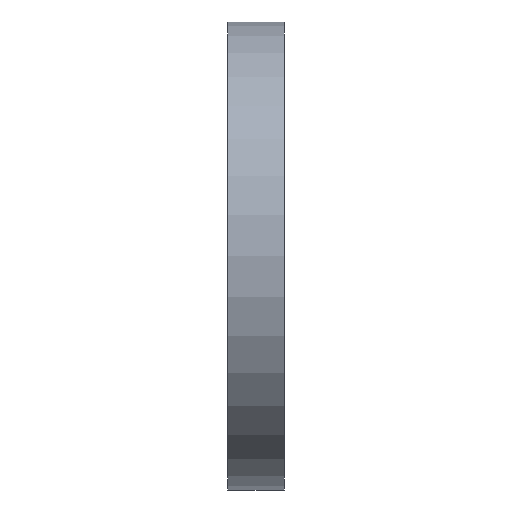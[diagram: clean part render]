
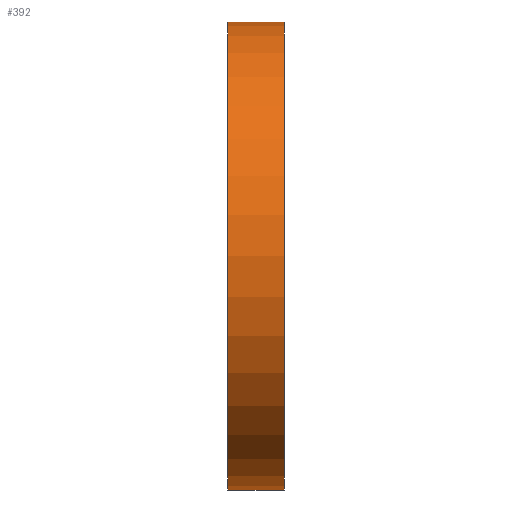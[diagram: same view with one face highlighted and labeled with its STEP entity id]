
A CAD part, left-side view. The second image highlights one B-rep face of the part: STEP entity #392.
In plain terms, the highlighted cylindrical face has radius 100 mm (diameter 200 mm), a partial arc.
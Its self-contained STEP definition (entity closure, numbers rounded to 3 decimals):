
#14 = DIRECTION ( 'NONE',  ( 0., 1., 0. ) ) ;
#62 = DIRECTION ( 'NONE',  ( 0., 0., 1. ) ) ;
#75 = EDGE_CURVE ( 'NONE', #501, #249, #324, .T. ) ;
#148 = EDGE_CURVE ( 'NONE', #249, #183, #839, .T. ) ;
#168 = CYLINDRICAL_SURFACE ( 'NONE', #707, 100. ) ;
#183 = VERTEX_POINT ( 'NONE', #542 ) ;
#235 = EDGE_LOOP ( 'NONE', ( #374, #675, #451, #596 ) ) ;
#249 = VERTEX_POINT ( 'NONE', #345 ) ;
#314 = DIRECTION ( 'NONE',  ( 0., 1., 0. ) ) ;
#324 = CIRCLE ( 'NONE', #500, 100. ) ;
#345 = CARTESIAN_POINT ( 'NONE',  ( 0., 0., 100. ) ) ;
#374 = ORIENTED_EDGE ( 'NONE', *, *, #660, .F. ) ;
#392 = ADVANCED_FACE ( 'NONE', ( #416 ), #168, .T. ) ;
#413 = DIRECTION ( 'NONE',  ( 0., 1., 0. ) ) ;
#416 = FACE_OUTER_BOUND ( 'NONE', #235, .T. ) ;
#421 = DIRECTION ( 'NONE',  ( 0., 0., 1. ) ) ;
#451 = ORIENTED_EDGE ( 'NONE', *, *, #148, .T. ) ;
#473 = CARTESIAN_POINT ( 'NONE',  ( 0., 34.695, -100. ) ) ;
#500 = AXIS2_PLACEMENT_3D ( 'NONE', #585, #314, #62 ) ;
#501 = VERTEX_POINT ( 'NONE', #647 ) ;
#542 = CARTESIAN_POINT ( 'NONE',  ( 0., 24., 100. ) ) ;
#543 = VERTEX_POINT ( 'NONE', #652 ) ;
#585 = CARTESIAN_POINT ( 'NONE',  ( 0., 0., 0. ) ) ;
#596 = ORIENTED_EDGE ( 'NONE', *, *, #833, .F. ) ;
#609 = LINE ( 'NONE', #473, #678 ) ;
#611 = CARTESIAN_POINT ( 'NONE',  ( 0., 24., 0. ) ) ;
#630 = DIRECTION ( 'NONE',  ( 0., 1., 0. ) ) ;
#647 = CARTESIAN_POINT ( 'NONE',  ( 0., 0., -100. ) ) ;
#652 = CARTESIAN_POINT ( 'NONE',  ( 0., 24., -100. ) ) ;
#660 = EDGE_CURVE ( 'NONE', #501, #543, #609, .T. ) ;
#675 = ORIENTED_EDGE ( 'NONE', *, *, #75, .T. ) ;
#678 = VECTOR ( 'NONE', #14, 1000. ) ;
#707 = AXIS2_PLACEMENT_3D ( 'NONE', #805, #630, #421 ) ;
#712 = CARTESIAN_POINT ( 'NONE',  ( 0., 34.695, 100. ) ) ;
#745 = DIRECTION ( 'NONE',  ( 0., 0., 1. ) ) ;
#804 = DIRECTION ( 'NONE',  ( 0., 1., 0. ) ) ;
#805 = CARTESIAN_POINT ( 'NONE',  ( 0., 34.695, 0. ) ) ;
#820 = CIRCLE ( 'NONE', #837, 100. ) ;
#828 = VECTOR ( 'NONE', #413, 1000. ) ;
#833 = EDGE_CURVE ( 'NONE', #543, #183, #820, .T. ) ;
#837 = AXIS2_PLACEMENT_3D ( 'NONE', #611, #804, #745 ) ;
#839 = LINE ( 'NONE', #712, #828 ) ;
